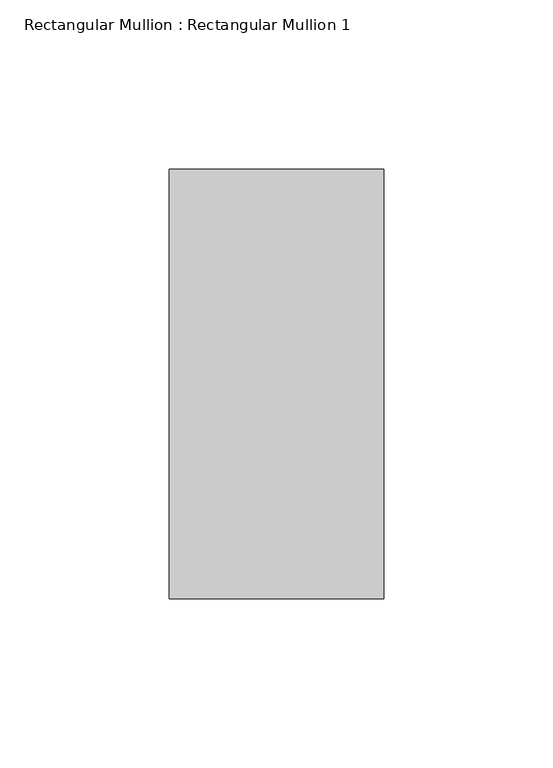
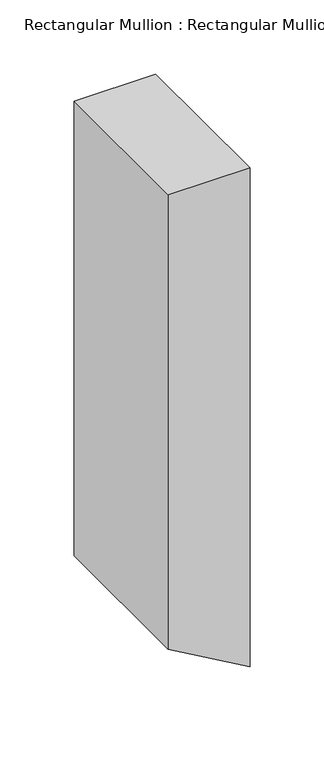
"""IFC4 building model written with IfcOpenShell, lengths in millimetres: member geometry, Rectangular Mullion : Rectangular Mullion 1."""

from ifc_helpers import new_model, si_unit, frame, origin, place, context, project, spatial, polyline, outline, extrude, source, transform, mapped, element, save


def rectangular_mullion_rectangular_mullion_1_5ecc01b3(model_context):
    return source(origin(), model_context, "Body", "SweptSolid", [
        extrude(outline(polyline([(0.0, 31.75), (0.0, -31.75), (-373.5457171, -31.75), (-410.2074592, 31.75), (0.0, 31.75)])), frame((0.0, -63.5, 0.0), z_axis=(0.0, 1.0, 0.0), x_axis=(0.0, 0.0, 1.0)), (0.0, 0.0, 1.0), 127.0),
    ])


if __name__ == "__main__":
    model = new_model("IFC4")
    model_context = context("Model", 3, world=origin())
    ifc_project = project(units=[si_unit("LENGTHUNIT", "METRE", prefix="MILLI")], contexts=[model_context])
    site = spatial("IfcSite", under=ifc_project)
    building = spatial("IfcBuilding", under=site)
    placement = place(None, origin())
    rectangular_mullion_rectangular_mullion_1_shape = rectangular_mullion_rectangular_mullion_1_5ecc01b3(model_context)
    element("IfcMember", 1, ObjectType="Rectangular Mullion : Rectangular Mullion 1", at=placement, inside=building, context=model_context, shape_type="MappedRepresentation", body=[
        mapped(rectangular_mullion_rectangular_mullion_1_shape, transform((0.0, 0.0, 0.0), x_axis=(1.0, 0.0, 0.0), y_axis=(0.0, 1.0, 0.0), z_axis=(0.0, 0.0, 1.0))),
    ])
    save(model, "model.ifc")
